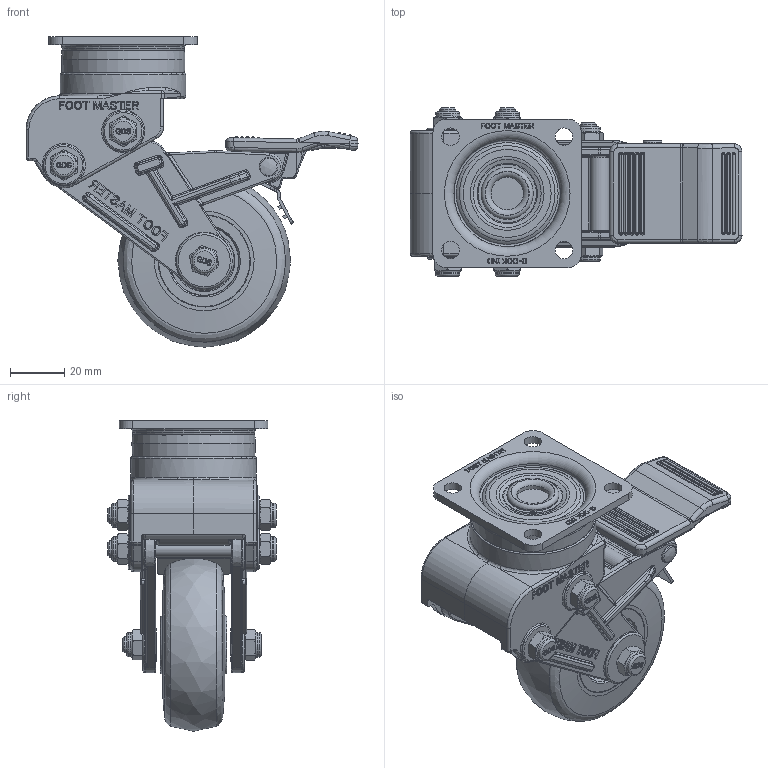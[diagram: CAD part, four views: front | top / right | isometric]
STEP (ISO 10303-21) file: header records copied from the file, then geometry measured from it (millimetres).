
FILE_DESCRIPTION(/* description */ (''),/* implementation_level */ '2;1');
FILE_NAME(/* name */ '\\192.168.10.38\지덕공유\1.기술연구소\2.연구개발 완료\완료_55.소형 충격흡수식캐스터_GDS-50.65\5.홈페이지 도면\3D\GDS-65-BSF-EUS-1.stp',/* time_stamp */ '2024-12-05T10:18:53+09:00',/* author */ ('admin'),/* organization */ (''),/* preprocessor_version */ 'ST-DEVELOPER v18.1',/* originating_system */ 'Autodesk Inventor 2021',/* authorisation */ '');
FILE_SCHEMA (('AUTOMOTIVE_DESIGN { 1 0 10303 214 3 1 1 }'));
Products named in the file (1): GDS-65-BSF-EUS
Bounding box: 122.96 x 62.3 x 115 mm (x, y, z)
Volume: 166791.5 mm3; surface area: 61026.4 mm2
Topology: 1 solids, 1 shells, 2669 faces, 6895 edges, 4332 vertices
Faces by surface type: plane 922, bspline 844, cylinder 536, cone 163, torus 152, sphere 52
Full cylindrical faces by diameter (mm): 2 x1, 4 x3, 6 x5, 6.5 x4, 7 x2, 8.8 x3, 9 x6, 12 x1, 17.216 x2, 18 x1, 19.3 x1, 20 x2, 22 x2, 22.784 x2, 30 x1, 43 x1, 44.5 x1, 46.5 x1
Entity records: 94752 total; most frequent: CARTESIAN_POINT 31313, ORIENTED_EDGE 13716, DIRECTION 10950, EDGE_CURVE 6858, VERTEX_POINT 4332, AXIS2_PLACEMENT_3D 3878, LINE 3194, VECTOR 3194
